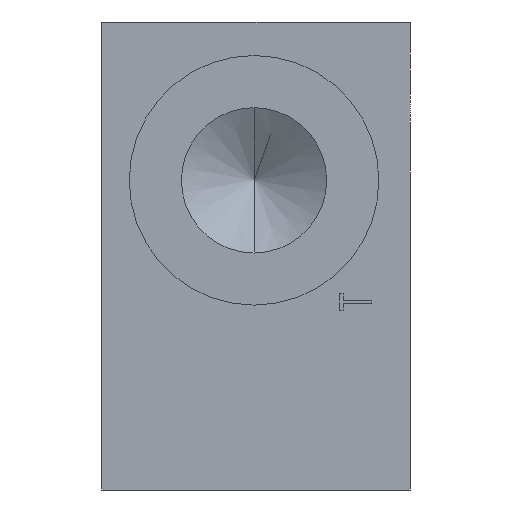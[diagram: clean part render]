
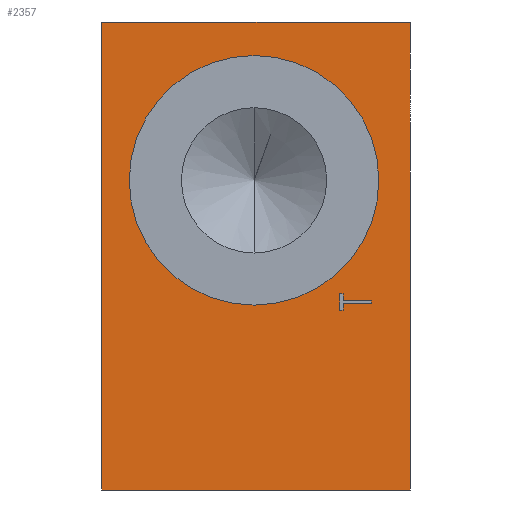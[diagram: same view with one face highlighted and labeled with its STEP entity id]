
A CAD part, left-side view. The second image highlights one B-rep face of the part: STEP entity #2357.
In plain terms, the highlighted planar face has unit normal (-1, 0, 0).
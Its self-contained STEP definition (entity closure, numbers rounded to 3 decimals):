
#3 = CARTESIAN_POINT ( 'NONE',  ( 0., -11.16, -6.077 ) ) ;
#43 = CARTESIAN_POINT ( 'NONE',  ( 0., 0.25, 9.7 ) ) ;
#49 = CARTESIAN_POINT ( 'NONE',  ( 0., 0.25, 9.7 ) ) ;
#76 = ORIENTED_EDGE ( 'NONE', *, *, #1011, .F. ) ;
#96 = CARTESIAN_POINT ( 'NONE',  ( 0., -11.16, -6.077 ) ) ;
#103 = VERTEX_POINT ( 'NONE', #1548 ) ;
#123 = LINE ( 'NONE', #2393, #1484 ) ;
#128 = FACE_OUTER_BOUND ( 'NONE', #1802, .T. ) ;
#146 = DIRECTION ( 'NONE',  ( 0., 1., 0. ) ) ;
#250 = DIRECTION ( 'NONE',  ( 0., -1., 0. ) ) ;
#252 = AXIS2_PLACEMENT_3D ( 'NONE', #2401, #1570, #2600 ) ;
#283 = ORIENTED_EDGE ( 'NONE', *, *, #950, .T. ) ;
#297 = DIRECTION ( 'NONE',  ( 0., 0., 1. ) ) ;
#325 = EDGE_LOOP ( 'NONE', ( #1724, #1002, #2682, #283, #2572, #1757, #2795, #2352 ) ) ;
#355 = EDGE_LOOP ( 'NONE', ( #1075, #445 ) ) ;
#378 = ORIENTED_EDGE ( 'NONE', *, *, #1339, .F. ) ;
#411 = VECTOR ( 'NONE', #2041, 1000. ) ;
#414 = DIRECTION ( 'NONE',  ( 0., -1., 0. ) ) ;
#427 = AXIS2_PLACEMENT_3D ( 'NONE', #43, #1825, #297 ) ;
#439 = CARTESIAN_POINT ( 'NONE',  ( 0., -10.75, -4.846 ) ) ;
#445 = ORIENTED_EDGE ( 'NONE', *, *, #816, .F. ) ;
#489 = DIRECTION ( 'NONE',  ( 0., 0., -1. ) ) ;
#496 = VECTOR ( 'NONE', #250, 1000. ) ;
#583 = CARTESIAN_POINT ( 'NONE',  ( 0., -14.75, -5.718 ) ) ;
#627 = LINE ( 'NONE', #1150, #1867 ) ;
#667 = AXIS2_PLACEMENT_3D ( 'NONE', #49, #2839, #2640 ) ;
#703 = CARTESIAN_POINT ( 'NONE',  ( 0., -10.75, -6.949 ) ) ;
#760 = VERTEX_POINT ( 'NONE', #2509 ) ;
#793 = CARTESIAN_POINT ( 'NONE',  ( 0., -19.75, 30. ) ) ;
#816 = EDGE_CURVE ( 'NONE', #1012, #760, #1780, .T. ) ;
#835 = EDGE_CURVE ( 'NONE', #2606, #2657, #2737, .T. ) ;
#842 = CARTESIAN_POINT ( 'NONE',  ( 0., -11.16, -5.718 ) ) ;
#871 = EDGE_CURVE ( 'NONE', #2657, #1965, #2483, .T. ) ;
#873 = CARTESIAN_POINT ( 'NONE',  ( 0., -19.75, -30. ) ) ;
#875 = VECTOR ( 'NONE', #146, 1000. ) ;
#898 = CARTESIAN_POINT ( 'NONE',  ( 0., 19.75, -30. ) ) ;
#904 = EDGE_CURVE ( 'NONE', #103, #2606, #1188, .T. ) ;
#934 = CARTESIAN_POINT ( 'NONE',  ( 0., 0.25, -6.3 ) ) ;
#950 = EDGE_CURVE ( 'NONE', #2524, #103, #123, .T. ) ;
#991 = EDGE_CURVE ( 'NONE', #2314, #2082, #1840, .T. ) ;
#995 = LINE ( 'NONE', #2087, #2133 ) ;
#1002 = ORIENTED_EDGE ( 'NONE', *, *, #1348, .T. ) ;
#1011 = EDGE_CURVE ( 'NONE', #2192, #2314, #995, .T. ) ;
#1012 = VERTEX_POINT ( 'NONE', #934 ) ;
#1075 = ORIENTED_EDGE ( 'NONE', *, *, #1398, .F. ) ;
#1083 = EDGE_CURVE ( 'NONE', #1965, #2866, #2699, .T. ) ;
#1150 = CARTESIAN_POINT ( 'NONE',  ( 0., -14.75, -6.077 ) ) ;
#1188 = LINE ( 'NONE', #439, #2884 ) ;
#1297 = VERTEX_POINT ( 'NONE', #2514 ) ;
#1339 = EDGE_CURVE ( 'NONE', #2476, #2192, #2384, .T. ) ;
#1348 = EDGE_CURVE ( 'NONE', #2083, #1297, #2320, .T. ) ;
#1360 = LINE ( 'NONE', #1492, #875 ) ;
#1398 = EDGE_CURVE ( 'NONE', #760, #1012, #1999, .T. ) ;
#1412 = DIRECTION ( 'NONE',  ( 0., 0., -1. ) ) ;
#1413 = EDGE_CURVE ( 'NONE', #2082, #2476, #1934, .T. ) ;
#1415 = EDGE_CURVE ( 'NONE', #2866, #2083, #627, .T. ) ;
#1416 = DIRECTION ( 'NONE',  ( 0., -1., 0. ) ) ;
#1418 = DIRECTION ( 'NONE',  ( 0., 1., 0. ) ) ;
#1429 = CARTESIAN_POINT ( 'NONE',  ( 0., -14.75, -5.718 ) ) ;
#1432 = EDGE_CURVE ( 'NONE', #1297, #2524, #1360, .T. ) ;
#1484 = VECTOR ( 'NONE', #2209, 1000. ) ;
#1492 = CARTESIAN_POINT ( 'NONE',  ( 0., -11.16, -6.949 ) ) ;
#1548 = CARTESIAN_POINT ( 'NONE',  ( 0., -10.75, -4.846 ) ) ;
#1556 = FACE_BOUND ( 'NONE', #325, .T. ) ;
#1570 = DIRECTION ( 'NONE',  ( -1., 0., 0. ) ) ;
#1606 = ORIENTED_EDGE ( 'NONE', *, *, #1413, .F. ) ;
#1646 = VECTOR ( 'NONE', #2420, 1000. ) ;
#1655 = CARTESIAN_POINT ( 'NONE',  ( 0., 19.75, 30. ) ) ;
#1724 = ORIENTED_EDGE ( 'NONE', *, *, #1415, .T. ) ;
#1757 = ORIENTED_EDGE ( 'NONE', *, *, #835, .T. ) ;
#1780 = CIRCLE ( 'NONE', #667, 16. ) ;
#1802 = EDGE_LOOP ( 'NONE', ( #2189, #76, #378, #1606 ) ) ;
#1825 = DIRECTION ( 'NONE',  ( -1., 0., 0. ) ) ;
#1840 = LINE ( 'NONE', #873, #411 ) ;
#1867 = VECTOR ( 'NONE', #1418, 1000. ) ;
#1934 = LINE ( 'NONE', #2039, #2940 ) ;
#1943 = VECTOR ( 'NONE', #1416, 1000. ) ;
#1965 = VERTEX_POINT ( 'NONE', #1429 ) ;
#1999 = CIRCLE ( 'NONE', #427, 16. ) ;
#2010 = CARTESIAN_POINT ( 'NONE',  ( 0., -11.16, -4.846 ) ) ;
#2039 = CARTESIAN_POINT ( 'NONE',  ( 0., 19.75, 30. ) ) ;
#2041 = DIRECTION ( 'NONE',  ( 0., 1., 0. ) ) ;
#2082 = VERTEX_POINT ( 'NONE', #898 ) ;
#2083 = VERTEX_POINT ( 'NONE', #96 ) ;
#2087 = CARTESIAN_POINT ( 'NONE',  ( 0., -19.75, 30. ) ) ;
#2133 = VECTOR ( 'NONE', #2495, 1000. ) ;
#2185 = CARTESIAN_POINT ( 'NONE',  ( 0., -19.75, -30. ) ) ;
#2189 = ORIENTED_EDGE ( 'NONE', *, *, #991, .F. ) ;
#2192 = VERTEX_POINT ( 'NONE', #2804 ) ;
#2209 = DIRECTION ( 'NONE',  ( 0., 0., 1. ) ) ;
#2293 = CARTESIAN_POINT ( 'NONE',  ( 0., -11.16, -4.846 ) ) ;
#2314 = VERTEX_POINT ( 'NONE', #2185 ) ;
#2320 = LINE ( 'NONE', #3, #2794 ) ;
#2352 = ORIENTED_EDGE ( 'NONE', *, *, #1083, .T. ) ;
#2357 = ADVANCED_FACE ( 'NONE', ( #2581, #128, #1556 ), #2796, .T. ) ;
#2384 = LINE ( 'NONE', #793, #496 ) ;
#2393 = CARTESIAN_POINT ( 'NONE',  ( 0., -10.75, -6.949 ) ) ;
#2401 = CARTESIAN_POINT ( 'NONE',  ( 0., 19.75, -30. ) ) ;
#2420 = DIRECTION ( 'NONE',  ( 0., 0., -1. ) ) ;
#2476 = VERTEX_POINT ( 'NONE', #1655 ) ;
#2483 = LINE ( 'NONE', #2831, #1943 ) ;
#2495 = DIRECTION ( 'NONE',  ( 0., 0., -1. ) ) ;
#2509 = CARTESIAN_POINT ( 'NONE',  ( 0., 0.25, 25.7 ) ) ;
#2514 = CARTESIAN_POINT ( 'NONE',  ( 0., -11.16, -6.949 ) ) ;
#2524 = VERTEX_POINT ( 'NONE', #703 ) ;
#2572 = ORIENTED_EDGE ( 'NONE', *, *, #904, .T. ) ;
#2581 = FACE_BOUND ( 'NONE', #355, .T. ) ;
#2600 = DIRECTION ( 'NONE',  ( 0., 0., 1. ) ) ;
#2606 = VERTEX_POINT ( 'NONE', #2293 ) ;
#2639 = VECTOR ( 'NONE', #1412, 1000. ) ;
#2640 = DIRECTION ( 'NONE',  ( 0., 0., 1. ) ) ;
#2644 = DIRECTION ( 'NONE',  ( 0., 0., 1. ) ) ;
#2657 = VERTEX_POINT ( 'NONE', #842 ) ;
#2682 = ORIENTED_EDGE ( 'NONE', *, *, #1432, .T. ) ;
#2699 = LINE ( 'NONE', #583, #2639 ) ;
#2737 = LINE ( 'NONE', #2010, #1646 ) ;
#2740 = CARTESIAN_POINT ( 'NONE',  ( 0., -14.75, -6.077 ) ) ;
#2794 = VECTOR ( 'NONE', #489, 1000. ) ;
#2795 = ORIENTED_EDGE ( 'NONE', *, *, #871, .T. ) ;
#2796 = PLANE ( 'NONE',  #252 ) ;
#2804 = CARTESIAN_POINT ( 'NONE',  ( 0., -19.75, 30. ) ) ;
#2831 = CARTESIAN_POINT ( 'NONE',  ( 0., -11.16, -5.718 ) ) ;
#2839 = DIRECTION ( 'NONE',  ( -1., 0., 0. ) ) ;
#2866 = VERTEX_POINT ( 'NONE', #2740 ) ;
#2884 = VECTOR ( 'NONE', #414, 1000. ) ;
#2940 = VECTOR ( 'NONE', #2644, 1000. ) ;
